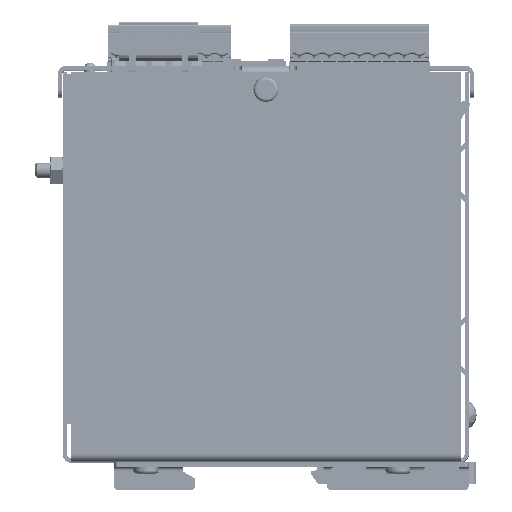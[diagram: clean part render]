
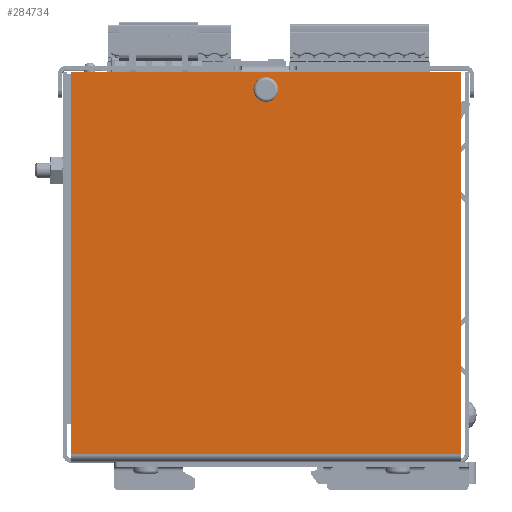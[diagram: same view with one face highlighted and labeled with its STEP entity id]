
A CAD part, top view. The second image highlights one B-rep face of the part: STEP entity #284734.
In plain terms, the highlighted planar face has unit normal (0, 0, 1).
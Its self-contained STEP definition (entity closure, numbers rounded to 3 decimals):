
#17755=DIRECTION('',(0.,-1.,0.));
#17756=VECTOR('',#17755,97.);
#17757=CARTESIAN_POINT('',(2.207,99.102,0.));
#17758=LINE('',#17757,#17756);
#17759=DIRECTION('',(-1.,0.,0.));
#17760=VECTOR('',#17759,99.);
#17761=CARTESIAN_POINT('',(101.207,2.102,0.));
#17762=LINE('',#17761,#17760);
#17763=CARTESIAN_POINT('',(51.707,94.602,0.));
#17764=DIRECTION('',(0.,0.,1.));
#17765=DIRECTION('',(-1.,0.,0.));
#17766=AXIS2_PLACEMENT_3D('',#17763,#17764,#17765);
#17768=CARTESIAN_POINT('',(51.707,94.602,0.));
#17769=DIRECTION('',(0.,0.,1.));
#17770=DIRECTION('',(1.,0.,0.));
#17771=AXIS2_PLACEMENT_3D('',#17768,#17769,#17770);
#17773=DIRECTION('',(-1.,0.,0.));
#17774=VECTOR('',#17773,99.);
#17775=CARTESIAN_POINT('',(101.207,99.102,0.));
#17776=LINE('',#17775,#17774);
#17789=DIRECTION('',(0.,1.,0.));
#17790=VECTOR('',#17789,97.);
#17791=CARTESIAN_POINT('',(101.207,2.102,0.));
#17792=LINE('',#17791,#17790);
#207037=CARTESIAN_POINT('',(101.207,2.102,0.));
#207038=CARTESIAN_POINT('',(2.207,2.102,0.));
#207039=VERTEX_POINT('',#207037);
#207040=VERTEX_POINT('',#207038);
#207045=CARTESIAN_POINT('',(2.207,99.102,0.));
#207046=VERTEX_POINT('',#207045);
#207047=CARTESIAN_POINT('',(101.207,99.102,0.));
#207048=VERTEX_POINT('',#207047);
#249947=CARTESIAN_POINT('',(48.557,94.602,0.));
#249948=CARTESIAN_POINT('',(54.857,94.602,0.));
#249949=VERTEX_POINT('',#249947);
#249950=VERTEX_POINT('',#249948);
#284714=CARTESIAN_POINT('',(51.707,50.602,0.));
#284715=DIRECTION('',(0.,0.,1.));
#284716=DIRECTION('',(1.,0.,0.));
#284717=AXIS2_PLACEMENT_3D('',#284714,#284715,#284716);
#284718=PLANE('',#284717);
#284719=ORIENTED_EDGE('',*,*,#284704,.F.);
#284721=ORIENTED_EDGE('',*,*,#284720,.F.);
#284723=ORIENTED_EDGE('',*,*,#284722,.F.);
#284725=ORIENTED_EDGE('',*,*,#284724,.T.);
#284726=EDGE_LOOP('',(#284719,#284721,#284723,#284725));
#284727=FACE_OUTER_BOUND('',#284726,.F.);
#284729=ORIENTED_EDGE('',*,*,#284728,.T.);
#284731=ORIENTED_EDGE('',*,*,#284730,.T.);
#284732=EDGE_LOOP('',(#284729,#284731));
#284733=FACE_BOUND('',#284732,.F.);
#17767=CIRCLE('',#17766,3.15);
#17772=CIRCLE('',#17771,3.15);
#284704=EDGE_CURVE('',#207046,#207040,#17758,.T.);
#284720=EDGE_CURVE('',#207048,#207046,#17776,.T.);
#284722=EDGE_CURVE('',#207039,#207048,#17792,.T.);
#284724=EDGE_CURVE('',#207039,#207040,#17762,.T.);
#284728=EDGE_CURVE('',#249949,#249950,#17767,.T.);
#284730=EDGE_CURVE('',#249950,#249949,#17772,.T.);
#284734=ADVANCED_FACE('',(#284727,#284733),#284718,.T.);
